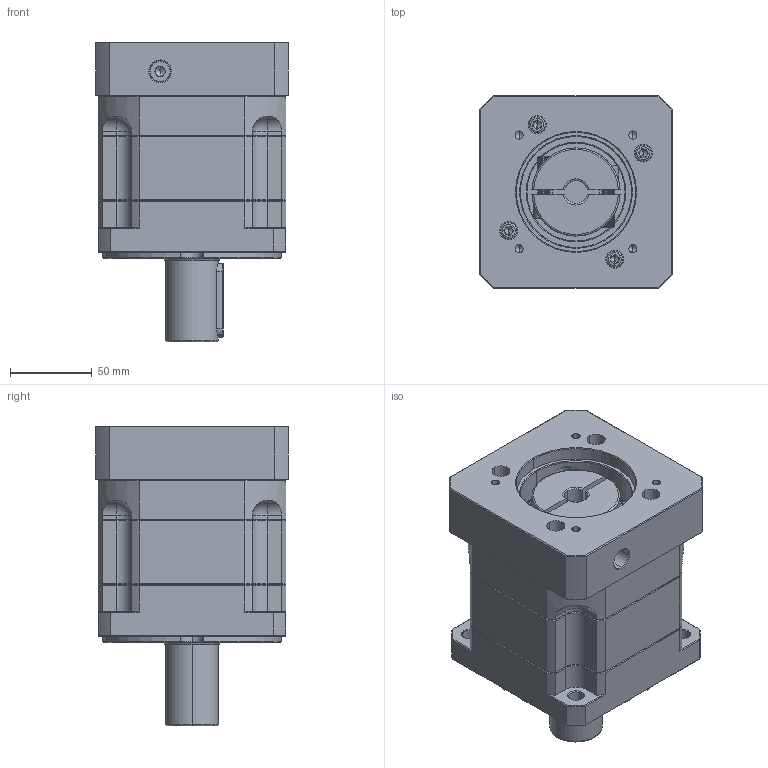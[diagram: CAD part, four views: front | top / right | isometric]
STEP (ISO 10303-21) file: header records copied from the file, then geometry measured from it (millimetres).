
FILE_DESCRIPTION (( 'STEP AP214' ), '1' );
FILE_NAME ('ZB115A-D32-L1-P2-14-73-69.6X69.6-M6.step', '2023-08-26T06:26:54', ( '' ), ( '' ), 'SwSTEP 2.0', 'SolidWorks 2016', '' );
FILE_SCHEMA (( 'AUTOMOTIVE_DESIGN' ));
Length unit declared in the file: millimetre
Products named in the file (1): ZB115A-D32-L1-P2-14-73-69.6X69.6-M6
Bounding box: 118 x 118 x 183.5 mm (x, y, z)
Volume: 1535215.4 mm3; surface area: 161743.9 mm2
Topology: 6 solids, 6 shells, 2193 faces, 5825 edges, 3732 vertices
Faces by surface type: plane 1136, bspline 399, cone 329, cylinder 297, torus 28, sphere 4
Entity records: 111244 total; most frequent: CARTESIAN_POINT 35153, ORIENTED_EDGE 11582, DIRECTION 9409, EDGE_CURVE 5791, VECTOR 3783, LINE 3783, VERTEX_POINT 3732, AXIS2_PLACEMENT_3D 2813
